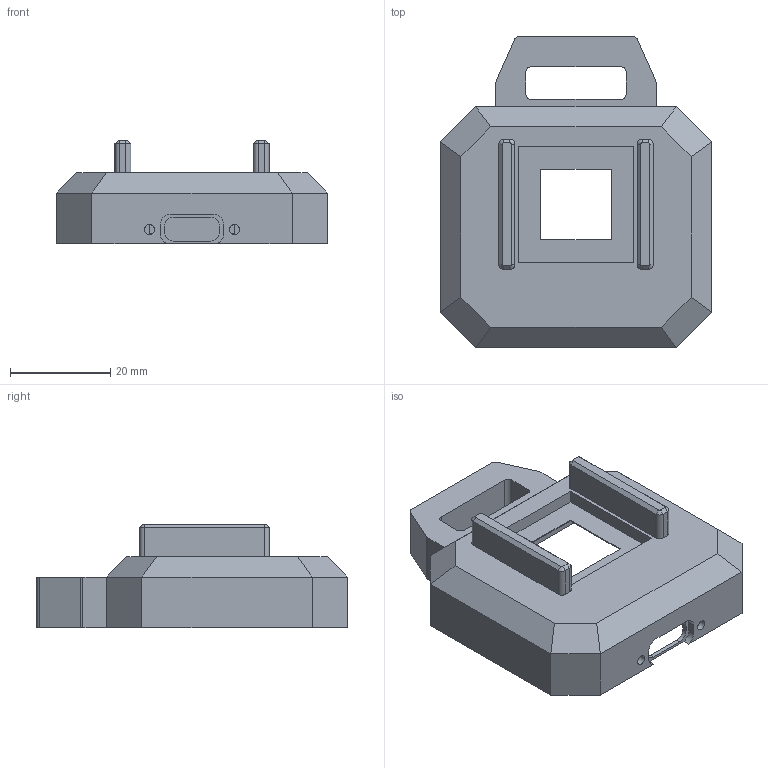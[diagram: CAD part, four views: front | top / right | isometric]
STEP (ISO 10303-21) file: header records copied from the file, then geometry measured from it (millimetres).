
FILE_DESCRIPTION(('Open CASCADE Model'),'2;1');
FILE_NAME('Open CASCADE Shape Model','2026-09-28T16:03:24',('Author'),( 'Open CASCADE'),'Open CASCADE STEP processor 7.9','Open CASCADE 7.9' ,'Unknown');
FILE_SCHEMA(('AUTOMOTIVE_DESIGN { 1 0 10303 214 1 1 1 1 }'));
Length unit declared in the file: millimetre
Products named in the file (1): Open CASCADE STEP translator 7.9 1
Bounding box: 54 x 62 x 20.6 mm (x, y, z)
Volume: 13215.2 mm3; surface area: 11873.2 mm2
Topology: 1 solids, 1 shells, 181 faces, 461 edges, 296 vertices
Faces by surface type: plane 125, cylinder 32, bspline 16, cone 8
Full cylindrical faces by diameter (mm): 2 x2, 3.4 x4, 7.2 x2
Entity records: 11404 total; most frequent: CARTESIAN_POINT 2437, DIRECTION 1545, LINE 1007, VECTOR 1007, ORIENTED_EDGE 922, PCURVE 922, DEFINITIONAL_REPRESENTATION 922, EDGE_CURVE 461
